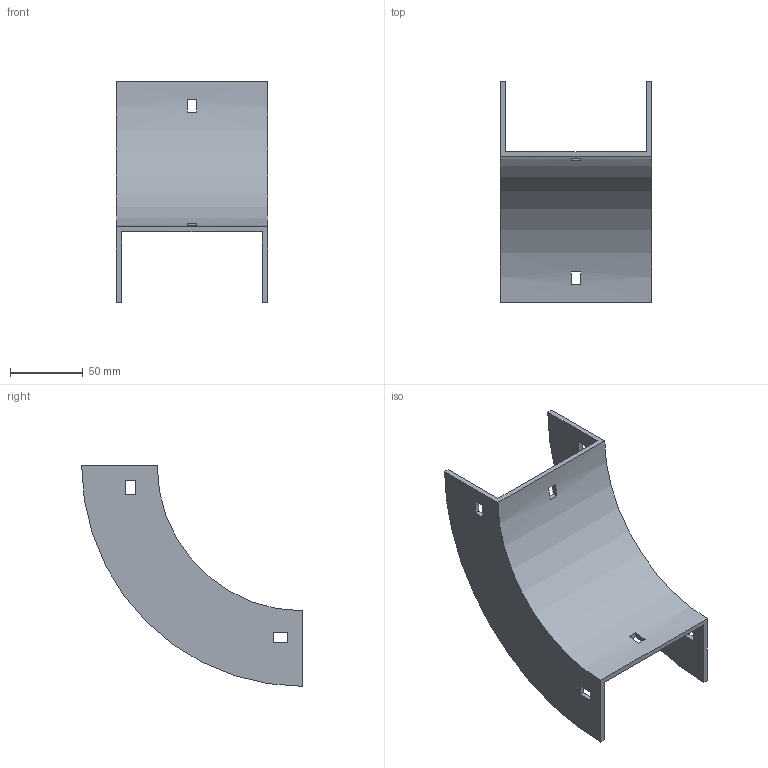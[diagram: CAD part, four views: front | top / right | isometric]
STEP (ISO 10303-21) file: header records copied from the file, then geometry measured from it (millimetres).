
FILE_DESCRIPTION (( 'STEP AP214' ), '1' );
FILE_NAME ('33B1B100.step', '2025-02-21T09:31:25', ( '' ), ( '' ), 'SwSTEP 2.0', 'SolidWorks 2023', '' );
FILE_SCHEMA (( 'AUTOMOTIVE_DESIGN' ));
Length unit declared in the file: millimetre
Products named in the file (1): 33B1B100
Bounding box: 104 x 152 x 152 mm (x, y, z)
Volume: 124909.6 mm3; surface area: 75132.1 mm2
Topology: 1 solids, 1 shells, 34 faces, 96 edges, 64 vertices
Faces by surface type: plane 30, cylinder 4
Entity records: 1143 total; most frequent: CARTESIAN_POINT 195, ORIENTED_EDGE 192, DIRECTION 182, EDGE_CURVE 96, LINE 80, VECTOR 80, VERTEX_POINT 64, AXIS2_PLACEMENT_3D 51
